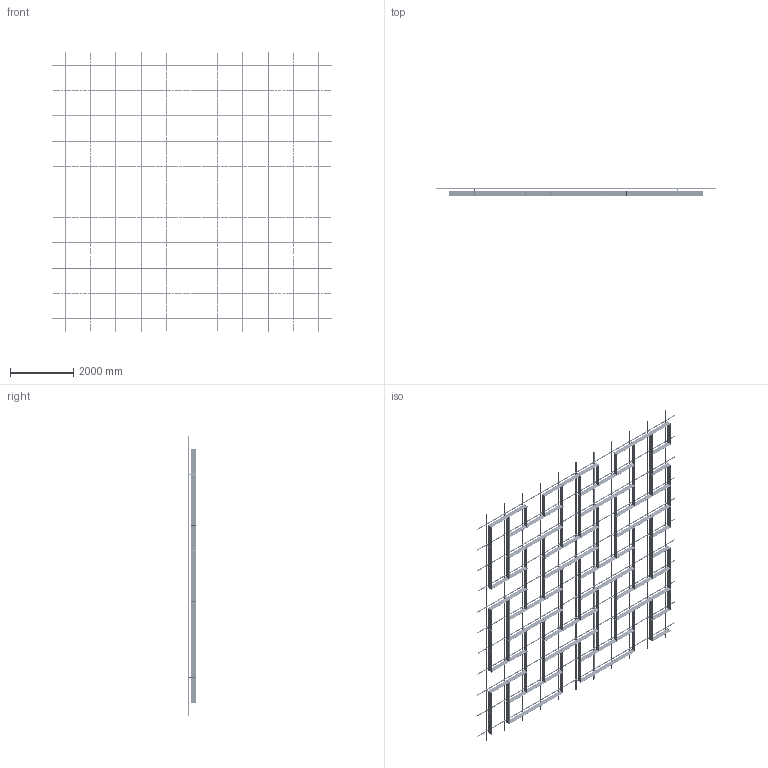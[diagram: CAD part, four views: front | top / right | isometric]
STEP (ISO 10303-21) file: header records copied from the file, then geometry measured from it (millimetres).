
FILE_DESCRIPTION (( 'STEP AP214' ), '1' );
FILE_NAME ('OPT_Var20.STEP', '2024-04-26T08:34:01', ( '' ), ( '' ), 'SwSTEP 2.0', 'SolidWorks 2020', '' );
FILE_SCHEMA (( 'AUTOMOTIVE_DESIGN' ));
Length unit declared in the file: millimetre
Products named in the file (5): OPT_Var20; SS.SEMA.2400 - Ñèìà-ïðîôèëü — îáðåçàí 1600; Ñèñòåìà â çîíå 8000õ8000; Varp20; SS.SEMA.2400 - Ñèìà-ïðîôèëü
Assembly tree (90 placements, depth 3):
  OPT_Var20
    Ñèñòåìà â çîíå 8000õ8000
      SS.SEMA.2400 - Ñèìà-ïðîôèëü  x66
      SS.SEMA.2400 - Ñèìà-ïðîôèëü — îáðåçàí 1600  x22
    Varp20
Bounding box: 8800 x 253 x 8800 mm (x, y, z)
Volume: 167841037.6 mm3; surface area: 72207050.8 mm2
Topology: 737 solids, 737 shells, 20086 faces, 54428 edges, 35816 vertices
Faces by surface type: cylinder 12826, plane 7260
Entity records: 106622 total; most frequent: CARTESIAN_POINT 32412, ORIENTED_EDGE 15704, DIRECTION 9526, EDGE_CURVE 7852, VERTEX_POINT 5224, B_SPLINE_CURVE_WITH_KNOTS 4928, AXIS2_PLACEMENT_3D 4514, EDGE_LOOP 4092
